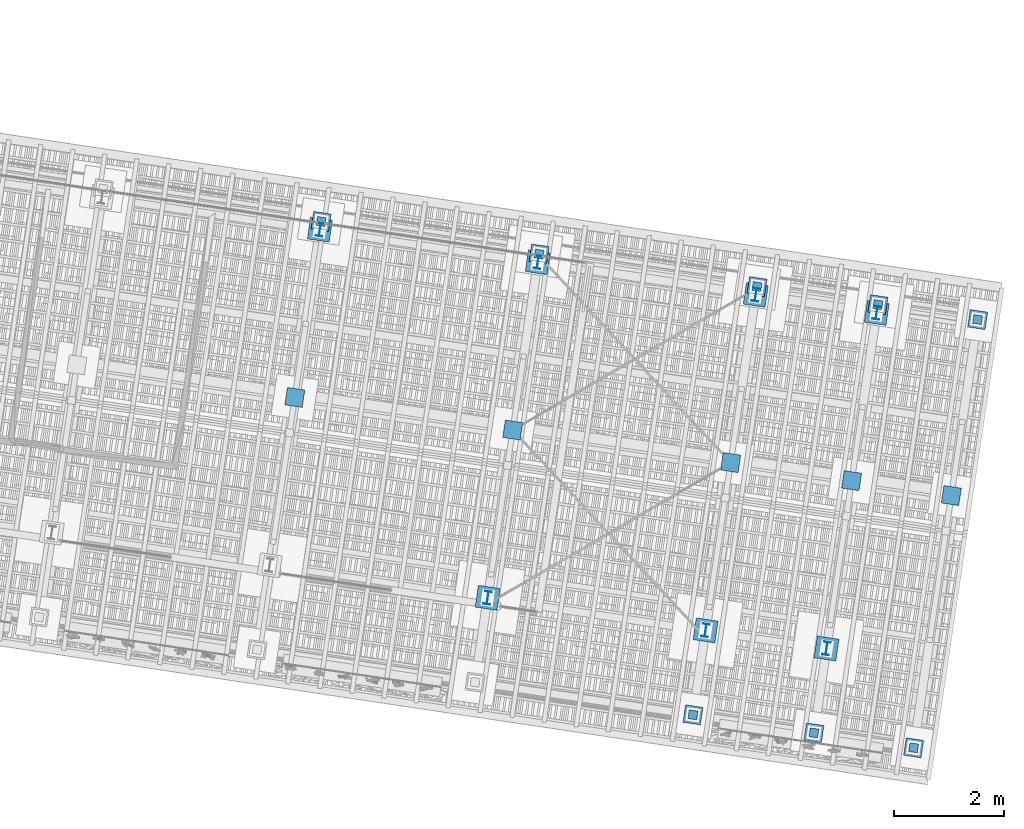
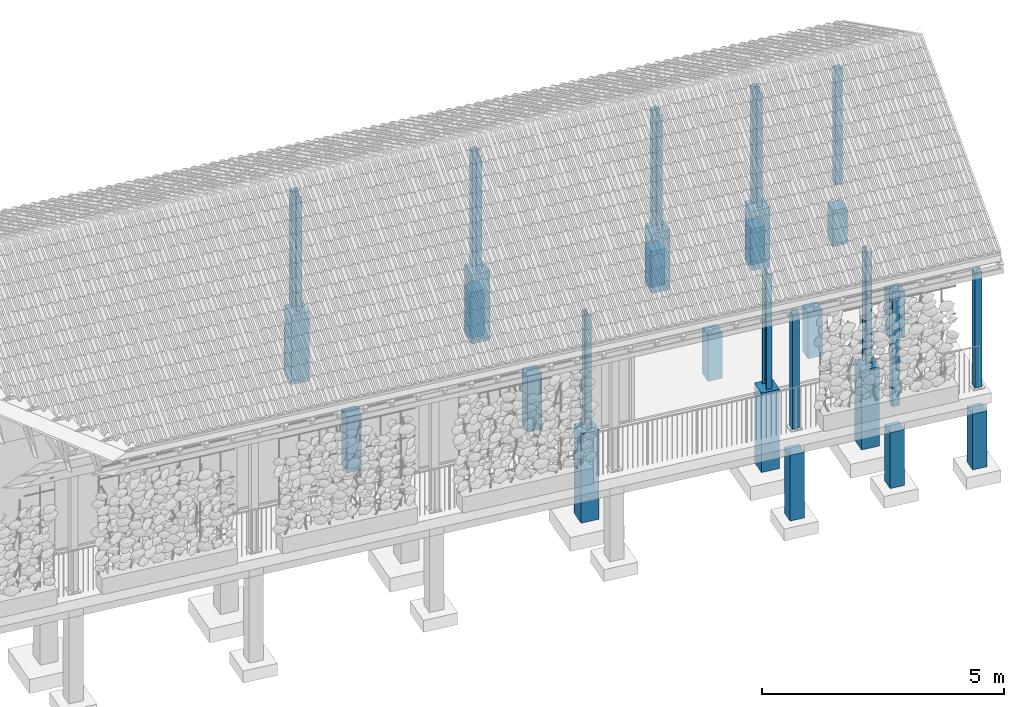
# One storey, part 5 of 131: 35 columns, 2 elements without a shape of their own.
"""IFC4 building model written with IfcOpenShell, lengths in metres."""

from ifc_helpers import new_model, si_unit, direction, frame, origin_with_axes, place, context, subcontext, project, spatial, polyline, rectangle, i_section, outline, extrude, material, material_profile, profile_set, profile_usage, type_object, element, aggregate, save


model = new_model("IFC4")

# Units and contexts
model_context = context("Model", 3, precision=1e-05, world=origin_with_axes(), true_north=direction((0.0, 1.0)))
body_context = subcontext(model_context, "Body", "Model", "MODEL_VIEW")
ifc_project = project(units=[si_unit("VOLUMEUNIT", "CUBIC_METRE"), si_unit("LENGTHUNIT", "METRE"), si_unit("AREAUNIT", "SQUARE_METRE")], contexts=[model_context])

# Site, building, storey
site_placement = place(None, origin_with_axes())
site = spatial("IfcSite", under=ifc_project, at=site_placement, Name="Lares · Rua das Mercês · artigo 4771")
building_placement = place(site_placement, frame((15.0, 9.7, 15.8), z_axis=(0.0, 0.0, 1.0), x_axis=(0.989015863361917, -0.147809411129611, 0.0)))
building = spatial("IfcBuilding", under=site, at=building_placement, Name="Casa Sobreposta")
storey_placement = place(building_placement, origin_with_axes())
storey = spatial("IfcBuildingStorey", under=building, at=storey_placement, Name="00 · Habitação e estacionamento", Elevation=15.8)

# Columns
ifc_material_1 = material(Name="Aço pintado / Stahl lackiert", Category="steel")
ifc_material_profile_1 = material_profile(ifc_material_1, i_section(OverallWidth=0.12, OverallDepth=0.24, WebThickness=0.0062, FlangeThickness=0.0098))
ifc_profile_set_1 = profile_set([ifc_material_profile_1], Name="IPE240")
ifc_profile_usage_1 = profile_usage(ifc_profile_set_1)
column_type_1 = type_object("IfcColumnType", Name="IPE240 / steel", PredefinedType="NOTDEFINED", material=ifc_profile_set_1)
column_1_placement = place(storey_placement, frame((20.0, 6.28, 0.0), z_axis=(0.0, 0.0, 1.0), x_axis=(1.0, 0.0, 0.0)))
element("IfcColumn", 1, at=column_1_placement, inside=storey, type_object=column_type_1, material=ifc_profile_usage_1, Name="Casa térrea · pilar metálico de referência", context=body_context, shape_type="SweptSolid", body=[
    extrude(i_section(OverallWidth=0.12, OverallDepth=0.24, WebThickness=0.0062, FlangeThickness=0.0098), origin_with_axes(), (0.0, 0.0, 1.0), 2.89),
])
ifc_profile_usage_2 = profile_usage(ifc_profile_set_1)
column_2_placement = place(storey_placement, frame((24.0, 0.12, 0.0), z_axis=(0.0, 0.0, 1.0), x_axis=(1.0, 0.0, 0.0)))
element("IfcColumn", 2, at=column_2_placement, inside=storey, type_object=column_type_1, material=ifc_profile_usage_2, Name="Casa térrea · pilar metálico de referência", context=body_context, shape_type="SweptSolid", body=[
    extrude(i_section(OverallWidth=0.12, OverallDepth=0.24, WebThickness=0.0062, FlangeThickness=0.0098), origin_with_axes(), (0.0, 0.0, 1.0), 2.89),
])
ifc_profile_usage_3 = profile_usage(ifc_profile_set_1)
column_3_placement = place(storey_placement, frame((24.0, 6.28, 0.0), z_axis=(0.0, 0.0, 1.0), x_axis=(1.0, 0.0, 0.0)))
element("IfcColumn", 3, at=column_3_placement, inside=storey, type_object=column_type_1, material=ifc_profile_usage_3, Name="Casa térrea · pilar metálico de referência", context=body_context, shape_type="SweptSolid", body=[
    extrude(i_section(OverallWidth=0.12, OverallDepth=0.24, WebThickness=0.0062, FlangeThickness=0.0098), origin_with_axes(), (0.0, 0.0, 1.0), 2.89),
])
ifc_profile_usage_4 = profile_usage(ifc_profile_set_1)
column_4_placement = place(storey_placement, frame((28.0, 0.12, 0.0), z_axis=(0.0, 0.0, 1.0), x_axis=(1.0, 0.0, 0.0)))
element("IfcColumn", 4, at=column_4_placement, inside=storey, type_object=column_type_1, material=ifc_profile_usage_4, Name="Casa térrea · pilar metálico de referência", context=body_context, shape_type="SweptSolid", body=[
    extrude(i_section(OverallWidth=0.12, OverallDepth=0.24, WebThickness=0.0062, FlangeThickness=0.0098), origin_with_axes(), (0.0, 0.0, 1.0), 2.89),
])
ifc_profile_usage_5 = profile_usage(ifc_profile_set_1)
column_5_placement = place(storey_placement, frame((28.0, 6.28, 0.0), z_axis=(0.0, 0.0, 1.0), x_axis=(1.0, 0.0, 0.0)))
element("IfcColumn", 5, at=column_5_placement, inside=storey, type_object=column_type_1, material=ifc_profile_usage_5, Name="Casa térrea · pilar metálico de referência", context=body_context, shape_type="SweptSolid", body=[
    extrude(i_section(OverallWidth=0.12, OverallDepth=0.24, WebThickness=0.0062, FlangeThickness=0.0098), origin_with_axes(), (0.0, 0.0, 1.0), 2.89),
])
ifc_profile_usage_6 = profile_usage(ifc_profile_set_1)
column_6_placement = place(storey_placement, frame((30.22, 0.12, 0.0), z_axis=(0.0, 0.0, 1.0), x_axis=(1.0, 0.0, 0.0)))
element("IfcColumn", 6, at=column_6_placement, inside=storey, type_object=column_type_1, material=ifc_profile_usage_6, Name="Casa térrea · pilar metálico de referência", context=body_context, shape_type="SweptSolid", body=[
    extrude(i_section(OverallWidth=0.12, OverallDepth=0.24, WebThickness=0.0062, FlangeThickness=0.0098), origin_with_axes(), (0.0, 0.0, 1.0), 2.89),
])
ifc_profile_usage_7 = profile_usage(ifc_profile_set_1)
column_7_placement = place(storey_placement, frame((30.22, 6.28, 0.0), z_axis=(0.0, 0.0, 1.0), x_axis=(1.0, 0.0, 0.0)))
element("IfcColumn", 7, at=column_7_placement, inside=storey, type_object=column_type_1, material=ifc_profile_usage_7, Name="Casa térrea · pilar metálico de referência", context=body_context, shape_type="SweptSolid", body=[
    extrude(i_section(OverallWidth=0.12, OverallDepth=0.24, WebThickness=0.0062, FlangeThickness=0.0098), origin_with_axes(), (0.0, 0.0, 1.0), 2.89),
])

# Assembly, columns
assembly_1_placement = place(storey_placement, origin_with_axes())
assembly_1 = element("IfcElementAssembly", 8, at=assembly_1_placement, inside=storey, Name="Varanda coberta · continuação integral da cobertura", ObjectType="COVERED_PODIUM_BALCONY", PredefinedType="USERDEFINED")
ifc_material_2 = material(Name="Madeira / Bauholz", Category="wood")
ifc_material_profile_2 = material_profile(ifc_material_2, rectangle(XDim=0.16, YDim=0.16))
ifc_profile_set_2 = profile_set([ifc_material_profile_2], Name="TIMBER0.160x0.160")
ifc_profile_usage_8 = profile_usage(ifc_profile_set_2)
column_type_2 = type_object("IfcColumnType", Name="TIMBER0.160x0.160 / timber", PredefinedType="NOTDEFINED", material=ifc_profile_set_2)
column_8_placement = place(assembly_1_placement, frame((20.0, 6.43, -0.015), z_axis=(0.0, 0.0, 1.0), x_axis=(1.0, 0.0, 0.0)))
column_8 = element("IfcColumn", 9, at=column_8_placement, type_object=column_type_2, material=ifc_profile_usage_8, Name="Varanda coberta · pilar", context=body_context, shape_type="SweptSolid", body=[
    extrude(rectangle(XDim=0.16, YDim=0.16), origin_with_axes(), (0.0, 0.0, 1.0), 2.905),
])
ifc_profile_usage_9 = profile_usage(ifc_profile_set_2)
column_9_placement = place(assembly_1_placement, frame((24.0, 6.43, -0.015), z_axis=(0.0, 0.0, 1.0), x_axis=(1.0, 0.0, 0.0)))
column_9 = element("IfcColumn", 10, at=column_9_placement, type_object=column_type_2, material=ifc_profile_usage_9, Name="Varanda coberta · pilar", context=body_context, shape_type="SweptSolid", body=[
    extrude(rectangle(XDim=0.16, YDim=0.16), origin_with_axes(), (0.0, 0.0, 1.0), 2.905),
])
ifc_profile_usage_10 = profile_usage(ifc_profile_set_2)
column_10_placement = place(assembly_1_placement, frame((28.0, -1.43, -0.015), z_axis=(0.0, 0.0, 1.0), x_axis=(1.0, 0.0, 0.0)))
column_10 = element("IfcColumn", 11, at=column_10_placement, type_object=column_type_2, material=ifc_profile_usage_10, Name="Varanda coberta · pilar", context=body_context, shape_type="SweptSolid", body=[
    extrude(rectangle(XDim=0.16, YDim=0.16), origin_with_axes(), (0.0, 0.0, 1.0), 2.905),
])
ifc_profile_usage_11 = profile_usage(ifc_profile_set_2)
column_11_placement = place(assembly_1_placement, frame((28.0, 6.43, -0.015), z_axis=(0.0, 0.0, 1.0), x_axis=(1.0, 0.0, 0.0)))
column_11 = element("IfcColumn", 12, at=column_11_placement, type_object=column_type_2, material=ifc_profile_usage_11, Name="Varanda coberta · pilar", context=body_context, shape_type="SweptSolid", body=[
    extrude(rectangle(XDim=0.16, YDim=0.16), origin_with_axes(), (0.0, 0.0, 1.0), 2.905),
])
ifc_profile_usage_12 = profile_usage(ifc_profile_set_2)
column_12_placement = place(assembly_1_placement, frame((30.22, -1.43, -0.015), z_axis=(0.0, 0.0, 1.0), x_axis=(1.0, 0.0, 0.0)))
column_12 = element("IfcColumn", 13, at=column_12_placement, type_object=column_type_2, material=ifc_profile_usage_12, Name="Varanda coberta · pilar", context=body_context, shape_type="SweptSolid", body=[
    extrude(rectangle(XDim=0.16, YDim=0.16), origin_with_axes(), (0.0, 0.0, 1.0), 2.905),
])
ifc_profile_usage_13 = profile_usage(ifc_profile_set_2)
column_13_placement = place(assembly_1_placement, frame((30.22, 6.43, -0.015), z_axis=(0.0, 0.0, 1.0), x_axis=(1.0, 0.0, 0.0)))
column_13 = element("IfcColumn", 14, at=column_13_placement, type_object=column_type_2, material=ifc_profile_usage_13, Name="Varanda coberta · pilar", context=body_context, shape_type="SweptSolid", body=[
    extrude(rectangle(XDim=0.16, YDim=0.16), origin_with_axes(), (0.0, 0.0, 1.0), 2.905),
])
ifc_profile_usage_14 = profile_usage(ifc_profile_set_2)
column_14_placement = place(assembly_1_placement, frame((32.05, -1.43, -0.015), z_axis=(0.0, 0.0, 1.0), x_axis=(1.0, 0.0, 0.0)))
column_14 = element("IfcColumn", 15, at=column_14_placement, type_object=column_type_2, material=ifc_profile_usage_14, Name="Varanda coberta · pilar", context=body_context, shape_type="SweptSolid", body=[
    extrude(rectangle(XDim=0.16, YDim=0.16), origin_with_axes(), (0.0, 0.0, 1.0), 2.905),
])
ifc_profile_usage_15 = profile_usage(ifc_profile_set_2)
column_15_placement = place(assembly_1_placement, frame((32.05, 6.43, -0.015), z_axis=(0.0, 0.0, 1.0), x_axis=(1.0, 0.0, 0.0)))
column_15 = element("IfcColumn", 16, at=column_15_placement, type_object=column_type_2, material=ifc_profile_usage_15, Name="Varanda coberta · pilar", context=body_context, shape_type="SweptSolid", body=[
    extrude(rectangle(XDim=0.16, YDim=0.16), origin_with_axes(), (0.0, 0.0, 1.0), 2.905),
])
aggregate(assembly_1, [column_8, column_9, column_10, column_11, column_12, column_13, column_14, column_15])

# Columns
ifc_material_3 = material(Name="Betão armado / Stahlbeton", Category="concrete")
column_16_placement = place(storey_placement, frame((0.0, 0.0, -1.75), z_axis=(0.0, 0.0, 1.0), x_axis=(1.0, 0.0, 0.0)))
element("IfcColumn", 17, at=column_16_placement, inside=storey, material=ifc_material_3, Name="Casa térrea · pedestal", context=body_context, shape_type="SweptSolid", body=[
    extrude(outline(polyline([(20.2, 6.08), (20.2, 6.48), (19.8, 6.48), (19.8, 6.08), (20.2, 6.08)])), origin_with_axes(), (0.0, 0.0, 1.0), 1.75),
])
column_17_placement = place(storey_placement, frame((0.0, 0.0, -2.25), z_axis=(0.0, 0.0, 1.0), x_axis=(1.0, 0.0, 0.0)))
element("IfcColumn", 18, at=column_17_placement, inside=storey, material=ifc_material_3, Name="Casa térrea · pedestal", context=body_context, shape_type="SweptSolid", body=[
    extrude(outline(polyline([(24.2, -0.08), (24.2, 0.32), (23.8, 0.32), (23.8, -0.08), (24.2, -0.08)])), origin_with_axes(), (0.0, 0.0, 1.0), 2.25),
])
column_18_placement = place(storey_placement, frame((0.0, 0.0, -1.75), z_axis=(0.0, 0.0, 1.0), x_axis=(1.0, 0.0, 0.0)))
element("IfcColumn", 19, at=column_18_placement, inside=storey, material=ifc_material_3, Name="Casa térrea · pedestal", context=body_context, shape_type="SweptSolid", body=[
    extrude(outline(polyline([(24.2, 6.08), (24.2, 6.48), (23.8, 6.48), (23.8, 6.08), (24.2, 6.08)])), origin_with_axes(), (0.0, 0.0, 1.0), 1.75),
])
column_19_placement = place(storey_placement, frame((0.0, 0.0, -2.0), z_axis=(0.0, 0.0, 1.0), x_axis=(1.0, 0.0, 0.0)))
element("IfcColumn", 20, at=column_19_placement, inside=storey, material=ifc_material_3, Name="Casa térrea · pedestal", context=body_context, shape_type="SweptSolid", body=[
    extrude(outline(polyline([(28.2, -0.08), (28.2, 0.32), (27.8, 0.32), (27.8, -0.08), (28.2, -0.08)])), origin_with_axes(), (0.0, 0.0, 1.0), 2.0),
])
column_20_placement = place(storey_placement, frame((0.0, 0.0, -1.5), z_axis=(0.0, 0.0, 1.0), x_axis=(1.0, 0.0, 0.0)))
element("IfcColumn", 21, at=column_20_placement, inside=storey, material=ifc_material_3, Name="Casa térrea · pedestal", context=body_context, shape_type="SweptSolid", body=[
    extrude(outline(polyline([(28.2, 6.08), (28.2, 6.48), (27.8, 6.48), (27.8, 6.08), (28.2, 6.08)])), origin_with_axes(), (0.0, 0.0, 1.0), 1.5),
])
column_21_placement = place(storey_placement, frame((0.0, 0.0, -2.0), z_axis=(0.0, 0.0, 1.0), x_axis=(1.0, 0.0, 0.0)))
element("IfcColumn", 22, at=column_21_placement, inside=storey, material=ifc_material_3, Name="Casa térrea · pedestal", context=body_context, shape_type="SweptSolid", body=[
    extrude(outline(polyline([(30.42, -0.08), (30.42, 0.32), (30.02, 0.32), (30.02, -0.08), (30.42, -0.08)])), origin_with_axes(), (0.0, 0.0, 1.0), 2.0),
])
column_22_placement = place(storey_placement, frame((0.0, 0.0, -1.5), z_axis=(0.0, 0.0, 1.0), x_axis=(1.0, 0.0, 0.0)))
element("IfcColumn", 23, at=column_22_placement, inside=storey, material=ifc_material_3, Name="Casa térrea · pedestal", context=body_context, shape_type="SweptSolid", body=[
    extrude(outline(polyline([(30.42, 6.08), (30.42, 6.48), (30.02, 6.48), (30.02, 6.08), (30.42, 6.08)])), origin_with_axes(), (0.0, 0.0, 1.0), 1.5),
])

# Assembly, columns
assembly_2_placement = place(storey_placement, origin_with_axes())
assembly_2 = element("IfcElementAssembly", 24, at=assembly_2_placement, inside=storey, Name="Pódio · terraço, casa térrea e cisterna", ObjectType="CISTERN_PODIUM", PredefinedType="USERDEFINED")
column_23_placement = place(assembly_2_placement, frame((0.0, 0.0, -2.0), z_axis=(0.0, 0.0, 1.0), x_axis=(1.0, 0.0, 0.0)))
column_23 = element("IfcColumn", 25, at=column_23_placement, material=ifc_material_3, Name="Pódio suspenso · apoio sobre o terreno", context=body_context, shape_type="SweptSolid", body=[
    extrude(outline(polyline([(20.16, 3.04), (20.16, 3.36), (19.84, 3.36), (19.84, 3.04), (20.16, 3.04)])), origin_with_axes(), (0.0, 0.0, 1.0), 1.41),
])
column_24_placement = place(assembly_2_placement, frame((0.0, 0.0, -1.75), z_axis=(0.0, 0.0, 1.0), x_axis=(1.0, 0.0, 0.0)))
column_24 = element("IfcColumn", 26, at=column_24_placement, material=ifc_material_3, Name="Pódio suspenso · apoio sobre o terreno", context=body_context, shape_type="SweptSolid", body=[
    extrude(outline(polyline([(20.16, 6.27), (20.16, 6.59), (19.84, 6.59), (19.84, 6.27), (20.16, 6.27)])), origin_with_axes(), (0.0, 0.0, 1.0), 1.16),
])
column_25_placement = place(assembly_2_placement, frame((0.0, 0.0, -2.0), z_axis=(0.0, 0.0, 1.0), x_axis=(1.0, 0.0, 0.0)))
column_25 = element("IfcColumn", 27, at=column_25_placement, material=ifc_material_3, Name="Pódio suspenso · apoio sobre o terreno", context=body_context, shape_type="SweptSolid", body=[
    extrude(outline(polyline([(24.16, 3.04), (24.16, 3.36), (23.84, 3.36), (23.84, 3.04), (24.16, 3.04)])), origin_with_axes(), (0.0, 0.0, 1.0), 1.41),
])
column_26_placement = place(assembly_2_placement, frame((0.0, 0.0, -1.75), z_axis=(0.0, 0.0, 1.0), x_axis=(1.0, 0.0, 0.0)))
column_26 = element("IfcColumn", 28, at=column_26_placement, material=ifc_material_3, Name="Pódio suspenso · apoio sobre o terreno", context=body_context, shape_type="SweptSolid", body=[
    extrude(outline(polyline([(24.16, 6.27), (24.16, 6.59), (23.84, 6.59), (23.84, 6.27), (24.16, 6.27)])), origin_with_axes(), (0.0, 0.0, 1.0), 1.16),
])
column_27_placement = place(assembly_2_placement, frame((0.0, 0.0, -2.25), z_axis=(0.0, 0.0, 1.0), x_axis=(1.0, 0.0, 0.0)))
column_27 = element("IfcColumn", 29, at=column_27_placement, material=ifc_material_3, Name="Pódio suspenso · apoio sobre o terreno", context=body_context, shape_type="SweptSolid", body=[
    extrude(outline(polyline([(28.16, -1.59), (28.16, -1.27), (27.84, -1.27), (27.84, -1.59), (28.16, -1.59)])), origin_with_axes(), (0.0, 0.0, 1.0), 1.66),
])
column_28_placement = place(assembly_2_placement, frame((0.0, 0.0, -1.75), z_axis=(0.0, 0.0, 1.0), x_axis=(1.0, 0.0, 0.0)))
column_28 = element("IfcColumn", 30, at=column_28_placement, material=ifc_material_3, Name="Pódio suspenso · apoio sobre o terreno", context=body_context, shape_type="SweptSolid", body=[
    extrude(outline(polyline([(28.16, 3.04), (28.16, 3.36), (27.84, 3.36), (27.84, 3.04), (28.16, 3.04)])), origin_with_axes(), (0.0, 0.0, 1.0), 1.16),
])
column_29_placement = place(assembly_2_placement, frame((0.0, 0.0, -1.5), z_axis=(0.0, 0.0, 1.0), x_axis=(1.0, 0.0, 0.0)))
column_29 = element("IfcColumn", 31, at=column_29_placement, material=ifc_material_3, Name="Pódio suspenso · apoio sobre o terreno", context=body_context, shape_type="SweptSolid", body=[
    extrude(outline(polyline([(28.16, 6.27), (28.16, 6.59), (27.84, 6.59), (27.84, 6.27), (28.16, 6.27)])), origin_with_axes(), (0.0, 0.0, 1.0), 0.91),
])
column_30_placement = place(assembly_2_placement, frame((0.0, 0.0, -2.0), z_axis=(0.0, 0.0, 1.0), x_axis=(1.0, 0.0, 0.0)))
column_30 = element("IfcColumn", 32, at=column_30_placement, material=ifc_material_3, Name="Pódio suspenso · apoio sobre o terreno", context=body_context, shape_type="SweptSolid", body=[
    extrude(outline(polyline([(30.38, -1.59), (30.38, -1.27), (30.06, -1.27), (30.06, -1.59), (30.38, -1.59)])), origin_with_axes(), (0.0, 0.0, 1.0), 1.41),
])
column_31_placement = place(assembly_2_placement, frame((0.0, 0.0, -1.75), z_axis=(0.0, 0.0, 1.0), x_axis=(1.0, 0.0, 0.0)))
column_31 = element("IfcColumn", 33, at=column_31_placement, material=ifc_material_3, Name="Pódio suspenso · apoio sobre o terreno", context=body_context, shape_type="SweptSolid", body=[
    extrude(outline(polyline([(30.38, 3.04), (30.38, 3.36), (30.06, 3.36), (30.06, 3.04), (30.38, 3.04)])), origin_with_axes(), (0.0, 0.0, 1.0), 1.16),
])
column_32_placement = place(assembly_2_placement, frame((0.0, 0.0, -1.5), z_axis=(0.0, 0.0, 1.0), x_axis=(1.0, 0.0, 0.0)))
column_32 = element("IfcColumn", 34, at=column_32_placement, material=ifc_material_3, Name="Pódio suspenso · apoio sobre o terreno", context=body_context, shape_type="SweptSolid", body=[
    extrude(outline(polyline([(30.38, 6.27), (30.38, 6.59), (30.06, 6.59), (30.06, 6.27), (30.38, 6.27)])), origin_with_axes(), (0.0, 0.0, 1.0), 0.91),
])
column_33_placement = place(assembly_2_placement, frame((0.0, 0.0, -2.0), z_axis=(0.0, 0.0, 1.0), x_axis=(1.0, 0.0, 0.0)))
column_33 = element("IfcColumn", 35, at=column_33_placement, material=ifc_material_3, Name="Pódio suspenso · apoio sobre o terreno", context=body_context, shape_type="SweptSolid", body=[
    extrude(outline(polyline([(32.21, -1.59), (32.21, -1.27), (31.89, -1.27), (31.89, -1.59), (32.21, -1.59)])), origin_with_axes(), (0.0, 0.0, 1.0), 1.41),
])
column_34_placement = place(assembly_2_placement, frame((0.0, 0.0, -1.75), z_axis=(0.0, 0.0, 1.0), x_axis=(1.0, 0.0, 0.0)))
column_34 = element("IfcColumn", 36, at=column_34_placement, material=ifc_material_3, Name="Pódio suspenso · apoio sobre o terreno", context=body_context, shape_type="SweptSolid", body=[
    extrude(outline(polyline([(32.21, 3.04), (32.21, 3.36), (31.89, 3.36), (31.89, 3.04), (32.21, 3.04)])), origin_with_axes(), (0.0, 0.0, 1.0), 1.16),
])
column_35_placement = place(assembly_2_placement, frame((0.0, 0.0, -1.5), z_axis=(0.0, 0.0, 1.0), x_axis=(1.0, 0.0, 0.0)))
column_35 = element("IfcColumn", 37, at=column_35_placement, material=ifc_material_3, Name="Pódio suspenso · apoio sobre o terreno", context=body_context, shape_type="SweptSolid", body=[
    extrude(outline(polyline([(32.21, 6.27), (32.21, 6.59), (31.89, 6.59), (31.89, 6.27), (32.21, 6.27)])), origin_with_axes(), (0.0, 0.0, 1.0), 0.91),
])
aggregate(assembly_2, [column_23, column_24, column_25, column_26, column_27, column_28, column_29, column_30, column_31, column_32, column_33, column_34, column_35])

save(model, "model.ifc")
